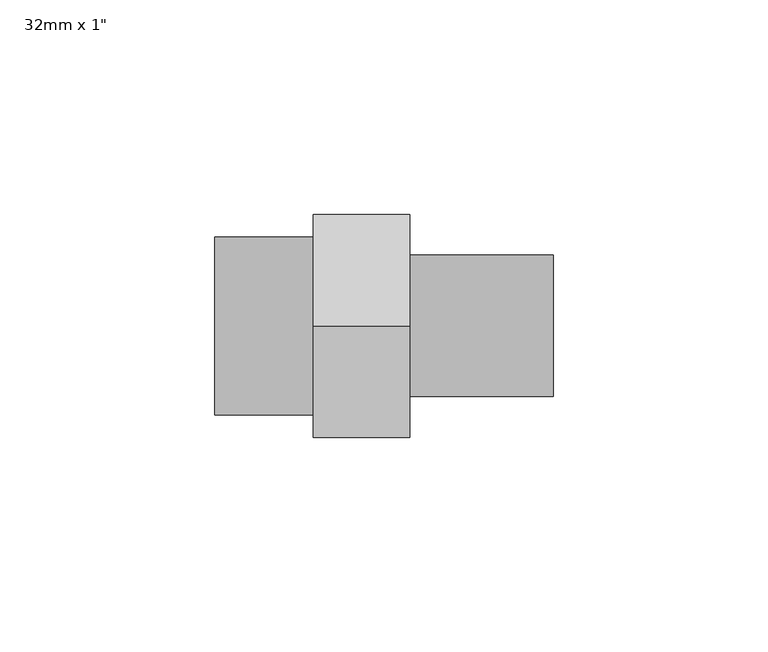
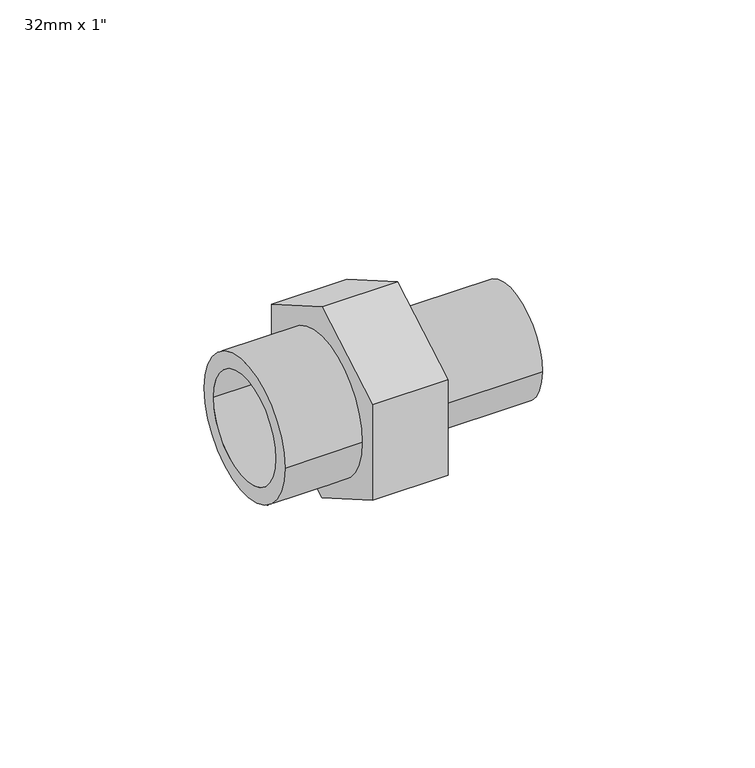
"""IFC4 building model written with IfcOpenShell, lengths in millimetres: pipe fitting geometry."""

from ifc_helpers import new_model, si_unit, point, frame, origin, origin_2d, place, context, project, spatial, polyline, circle_curve, trimmed, segment, composite_curve, outline, extrude, source, transform, mapped, element, save
from ifc_brep_helpers import plane_surface, cylinder_surface, revolved_surface, advanced_brep


def pipe_fitting_89a7494e(model_context):
    return source(origin(), model_context, "Body", "SolidModel", [
        extrude(outline(composite_curve([segment(trimmed(circle_curve(origin_2d(), 20.75), [point((-20.75, 0.0))], [point((20.75, 0.0))], False, "CARTESIAN"), True, "CONTINUOUS"), segment(trimmed(circle_curve(origin_2d(), 20.75), [point((20.75, 0.0))], [point((-20.75, 0.0))], False, "CARTESIAN"), True, "CONTINUOUS")], self_intersect=False), holes=[composite_curve([segment(trimmed(circle_curve(origin_2d(), 16.0), [point((-16.0, 0.0))], [point((16.0, 0.0))], True, "CARTESIAN"), True, "CONTINUOUS"), segment(trimmed(circle_curve(origin_2d(), 16.0), [point((16.0, 0.0))], [point((-16.0, 0.0))], True, "CARTESIAN"), True, "CONTINUOUS")], self_intersect=False)]), frame((-11.5, 0.0, 0.0), z_axis=(1.0, 0.0, 0.0), x_axis=(0.0, 1.0, 0.0)), (0.0, 0.0, 1.0), 23.0),
        advanced_brep(
        [(67.5, -16.5, 0.0), (67.5, 16.5, 0.0), (67.5, 13.0, 0.0), (67.5, -13.0, 0.0), (34.0, 16.5, 0.0), (34.0, -16.5, 0.0), (11.5, 0.0, 30.022214), (11.5, 26.0, 15.011107), (11.5, 26.0, -15.011107), (11.5, 0.0, -30.022214), (11.5, -26.0, -15.011107), (11.5, -26.0, 15.011107), (11.5, -13.0, 0.0), (11.5, 13.0, 0.0), (34.0, 0.0, 30.022214), (34.0, -26.0, 15.011107), (34.0, -26.0, -15.011107), (34.0, 0.0, -30.022214), (34.0, 26.0, -15.011107), (34.0, 26.0, 15.011107)],
        [
            (0, 1, circle_curve(frame((67.5, 0.0, 0.0), z_axis=(1.0, 0.0, 0.0), x_axis=(0.0, 1.0, 0.0)), 16.5)),
            (1, 0, circle_curve(frame((67.5, 0.0, 0.0), z_axis=(1.0, 0.0, 0.0), x_axis=(0.0, 1.0, 0.0)), 16.5)),
            (2, 3, circle_curve(frame((67.5, 0.0, 0.0), z_axis=(-1.0, 0.0, 0.0), x_axis=(0.0, -1.0, 0.0)), 13.0)),
            (3, 2, circle_curve(frame((67.5, 0.0, 0.0), z_axis=(-1.0, 0.0, 0.0), x_axis=(0.0, -1.0, 0.0)), 13.0)),
            (1, 4),
            (4, 5, circle_curve(frame((34.0, 0.0, 0.0), z_axis=(1.0, 0.0, 0.0), x_axis=(0.0, 1.0, 0.0)), 16.5)),
            (5, 0),
            (5, 4, circle_curve(frame((34.0, 0.0, 0.0), z_axis=(1.0, 0.0, 0.0), x_axis=(0.0, 1.0, 0.0)), 16.5)),
            (6, 7),
            (7, 8),
            (8, 9),
            (9, 10),
            (10, 11),
            (11, 6),
            (12, 13, circle_curve(frame((11.5, 0.0, 0.0), z_axis=(1.0, 0.0, 0.0), x_axis=(0.0, -1.0, 0.0)), 13.0)),
            (13, 12, circle_curve(frame((11.5, 0.0, 0.0), z_axis=(1.0, 0.0, 0.0), x_axis=(0.0, -1.0, 0.0)), 13.0)),
            (14, 15),
            (15, 16),
            (16, 17),
            (17, 18),
            (18, 19),
            (19, 14),
            (6, 14),
            (19, 7),
            (18, 8),
            (17, 9),
            (16, 10),
            (15, 11),
            (12, 3),
            (2, 13),
        ],
        [
            plane_surface(frame((67.5, 0.0, 0.0), z_axis=(1.0, 0.0, 0.0), x_axis=(0.0, 0.0, 1.0))),
            cylinder_surface(frame((34.0, 0.0, 0.0), z_axis=(-1.0, 0.0, 0.0), x_axis=(0.0, 1.0, 0.0)), 16.5),
            plane_surface(frame((11.5, 0.0, 0.0), z_axis=(-1.0, 0.0, 0.0), x_axis=(0.0, 0.0, 1.0))),
            plane_surface(frame((34.0, 0.0, 0.0), z_axis=(1.0, 0.0, 0.0), x_axis=(0.0, 0.0, 1.0))),
            plane_surface(frame((11.5, 0.0, 30.022214), z_axis=(0.0, 0.499999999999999, 0.8660254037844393), x_axis=(1.0, 0.0, 0.0))),
            plane_surface(frame((11.5, 26.0, 15.011107), z_axis=(0.0, 1.0, 0.0), x_axis=(1.0, 0.0, 0.0))),
            plane_surface(frame((11.5, 26.0, -15.011107), z_axis=(0.0, 0.4999999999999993, -0.866025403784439), x_axis=(1.0, 0.0, 0.0))),
            plane_surface(frame((11.5, 0.0, -30.022214), z_axis=(0.0, -0.49999999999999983, -0.8660254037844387), x_axis=(1.0, 0.0, 0.0))),
            plane_surface(frame((11.5, -26.0, -15.011107), z_axis=(0.0, -1.0, 0.0), x_axis=(1.0, 0.0, 0.0))),
            plane_surface(frame((11.5, -26.0, 15.011107), z_axis=(0.0, -0.49999999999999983, 0.8660254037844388), x_axis=(1.0, 0.0, 0.0))),
            revolved_surface(polyline([(11.5, -13.0, 0.0), (67.5, -13.0, 0.0)]), (67.5, 0.0, 0.0), (-1.0, 0.0, 0.0)),
        ],
        [
            (0, [[1, 2], [3, 4]]),
            (1, [[-2, 5, 6, 7]]),
            (1, [[-1, -7, 8, -5]]),
            (2, [[9, 10, 11, 12, 13, 14], [15, 16]]),
            (3, [[17, 18, 19, 20, 21, 22], [-6, -8]]),
            (4, [[-9, 23, -22, 24]]),
            (5, [[-10, -24, -21, 25]]),
            (6, [[-11, -25, -20, 26]]),
            (7, [[-12, -26, -19, 27]]),
            (8, [[-13, -27, -18, 28]]),
            (9, [[-14, -28, -17, -23]]),
            (10, [[29, -3, 30, -15]]),
            (10, [[-29, -16, -30, -4]]),
        ],
    ),
    ])


if __name__ == "__main__":
    model = new_model("IFC4")
    model_context = context("Model", 3, world=origin())
    ifc_project = project(units=[si_unit("LENGTHUNIT", "METRE", prefix="MILLI")], contexts=[model_context])
    site = spatial("IfcSite", under=ifc_project)
    building = spatial("IfcBuilding", under=site)
    placement = place(None, origin())
    pipe_fitting_shape = pipe_fitting_89a7494e(model_context)
    element("IfcPipeFitting", 1, ObjectType="PipeFitting_HTA_CPVC_Male3PieceUnions_(CPVC-Brass) : 32mm x 1\"", at=placement, inside=building, context=model_context, shape_type="MappedRepresentation", body=[
        mapped(pipe_fitting_shape, transform((0.0, 0.0, 0.0), x_axis=(1.0, 0.0, 0.0), y_axis=(0.0, 1.0, 0.0), z_axis=(0.0, 0.0, 1.0))),
    ])
    save(model, "model.ifc")
